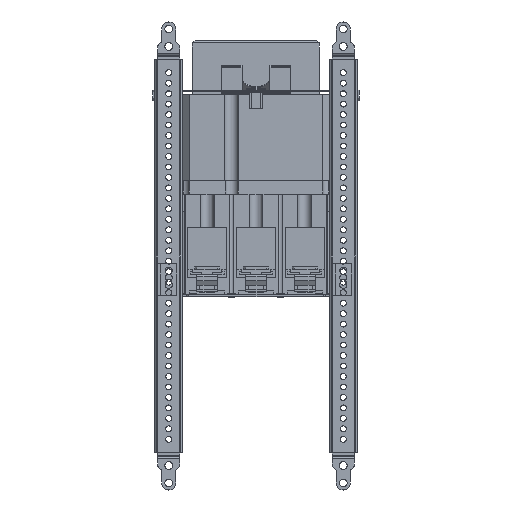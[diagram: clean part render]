
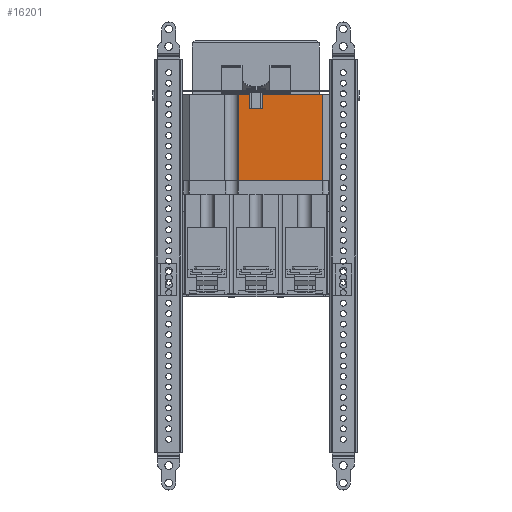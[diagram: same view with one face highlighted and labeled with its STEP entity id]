
A CAD part, left-side view. The second image highlights one B-rep face of the part: STEP entity #16201.
In plain terms, the highlighted planar face has unit normal (-1, 0, 0).
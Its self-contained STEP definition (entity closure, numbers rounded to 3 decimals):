
#15001=CARTESIAN_POINT(' ',(-91.962,15.653,77.354));
#15002=VERTEX_POINT(' ',#15001);
#15021=CARTESIAN_POINT(' ',(-91.962,15.653,77.354));
#15026=DIRECTION(' ',(0.,-1.,0.));
#15031=VECTOR(' ',#15026,1.);
#15036=LINE('',#15021,#15031);
#15041=CARTESIAN_POINT(' ',(-91.962,-44.347,77.354));
#15042=VERTEX_POINT(' ',#15041);
#15046=EDGE_CURVE(' ',#15002,#15042,#15036,.T.);
#16061=DIRECTION(' ',(-1.,0.,0.));
#16066=CARTESIAN_POINT(' ',(-91.962,-44.347,77.354));
#16071=DIRECTION(' ',(0.,1.,0.));
#16076=AXIS2_PLACEMENT_3D(' ',#16066,#16061,#16071);
#16081=PLANE('NONE',#16076);
#16086=CARTESIAN_POINT(' ',(-91.962,15.653,15.654));
#16091=DIRECTION(' ',(0.,-1.,0.));
#16096=VECTOR(' ',#16091,1.);
#16101=LINE('',#16086,#16096);
#16106=CARTESIAN_POINT(' ',(-91.962,15.653,15.654));
#16107=VERTEX_POINT(' ',#16106);
#16111=CARTESIAN_POINT(' ',(-91.962,-44.347,15.654));
#16112=VERTEX_POINT(' ',#16111);
#16116=EDGE_CURVE(' ',#16107,#16112,#16101,.T.);
#16121=ORIENTED_EDGE(' ',*,*,#16116,.T.);
#16126=CARTESIAN_POINT(' ',(-91.962,-44.347,15.654));
#16131=DIRECTION(' ',(0.,0.,1.));
#16136=VECTOR(' ',#16131,1.);
#16141=LINE('',#16126,#16136);
#16146=EDGE_CURVE(' ',#16112,#15042,#16141,.T.);
#16151=ORIENTED_EDGE(' ',*,*,#16146,.T.);
#16156=ORIENTED_EDGE(' ',*,*,#15046,.F.);
#16161=CARTESIAN_POINT(' ',(-91.962,15.653,77.354));
#16166=DIRECTION(' ',(0.,0.,-1.));
#16171=VECTOR(' ',#16166,1.);
#16176=LINE('',#16161,#16171);
#16181=EDGE_CURVE(' ',#15002,#16107,#16176,.T.);
#16186=ORIENTED_EDGE(' ',*,*,#16181,.T.);
#16191=EDGE_LOOP(' ',(#16121,#16151,#16156,#16186));
#16196=FACE_OUTER_BOUND(' ',#16191,.T.);
#16201=ADVANCED_FACE('NONE',(#16196),#16081,.T.);
